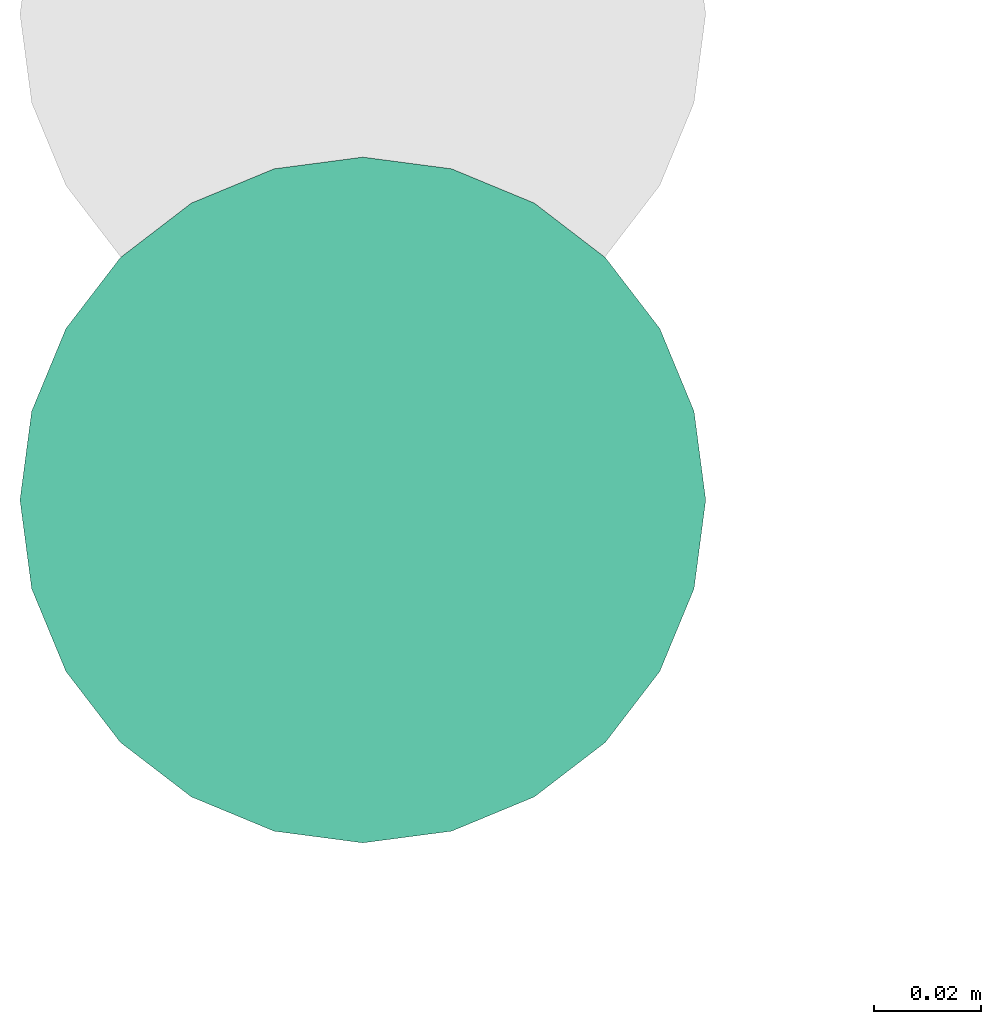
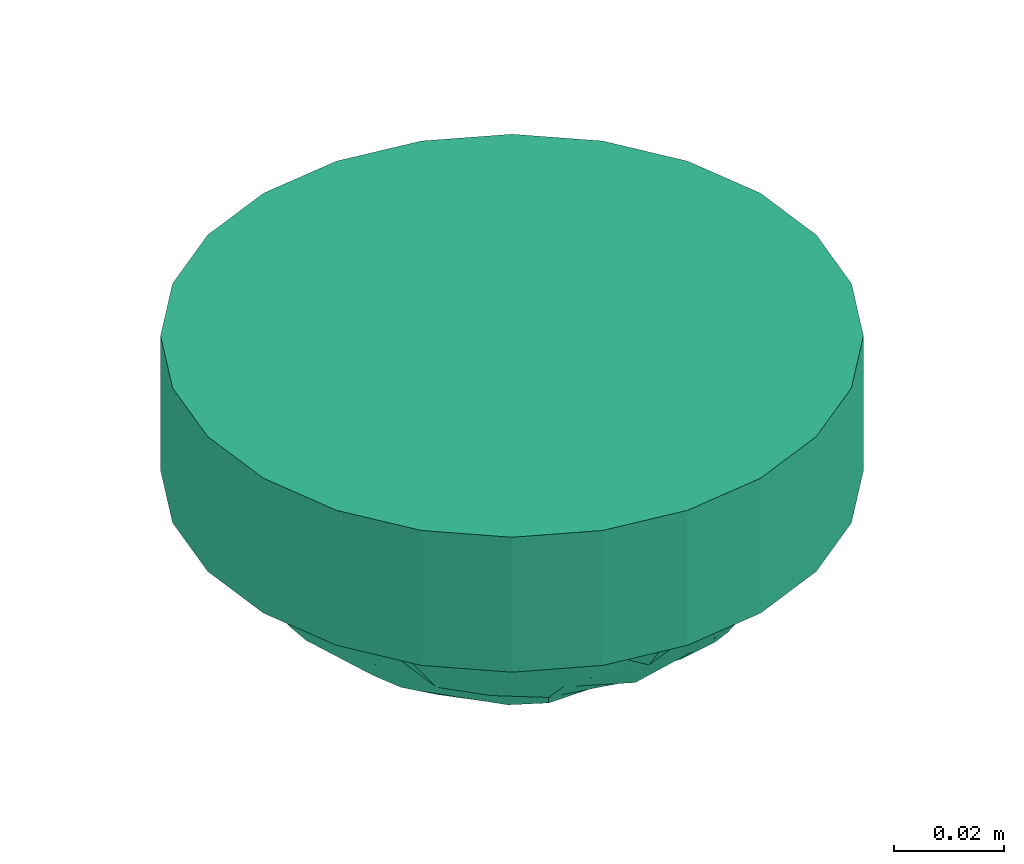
# One storey, part 29 of 153: 1 flow terminal.
"""IFC2X3 building model written with IfcOpenShell, lengths in metres."""

from ifc_helpers import new_model, entity, si_unit, converted_unit, derived_unit, direction, frame, origin, place, context, subcontext, project, spatial, faceted_brep, source, transform, mapped, type_object, type_shapes, element, save


model = new_model("IFC2X3")

# Units and contexts
model_context = context("Model", 3, precision=1e-05, world=origin(), true_north=direction((6.12303176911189e-17, 1.0)))
body_context = subcontext(model_context, "Body", "Model", "MODEL_VIEW")
ifc_project = project(units=[si_unit("LENGTHUNIT", "METRE"), si_unit("AREAUNIT", "SQUARE_METRE"), si_unit("VOLUMEUNIT", "CUBIC_METRE"), converted_unit("PLANEANGLEUNIT", "DEGREE", entity("IfcRatioMeasure", 0.0174532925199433), si_unit("PLANEANGLEUNIT", "RADIAN"), dimensions=[0, 0, 0, 0, 0, 0, 0]), si_unit("MASSUNIT", "GRAM", prefix="KILO"), derived_unit("MASSDENSITYUNIT", [(si_unit("MASSUNIT", "GRAM", prefix="KILO"), 1), (si_unit("LENGTHUNIT", "METRE"), -3)]), si_unit("TIMEUNIT", "SECOND"), si_unit("FREQUENCYUNIT", "HERTZ"), si_unit("THERMODYNAMICTEMPERATUREUNIT", "DEGREE_CELSIUS"), derived_unit("THERMALTRANSMITTANCEUNIT", [(si_unit("MASSUNIT", "GRAM", prefix="KILO"), 1), (si_unit("THERMODYNAMICTEMPERATUREUNIT", "KELVIN"), -1), (si_unit("TIMEUNIT", "SECOND"), -3)]), derived_unit("VOLUMETRICFLOWRATEUNIT", [(si_unit("LENGTHUNIT", "METRE"), 3), (si_unit("TIMEUNIT", "SECOND"), -1)]), si_unit("ELECTRICCURRENTUNIT", "AMPERE"), si_unit("ELECTRICVOLTAGEUNIT", "VOLT"), si_unit("POWERUNIT", "WATT"), si_unit("FORCEUNIT", "NEWTON"), si_unit("ILLUMINANCEUNIT", "LUX"), si_unit("LUMINOUSFLUXUNIT", "LUMEN"), si_unit("LUMINOUSINTENSITYUNIT", "CANDELA"), derived_unit("USERDEFINED", [(si_unit("MASSUNIT", "GRAM", prefix="KILO"), -1), (si_unit("LENGTHUNIT", "METRE"), -2), (si_unit("TIMEUNIT", "SECOND"), 3), (si_unit("LUMINOUSFLUXUNIT", "LUMEN"), 1)]), derived_unit("LINEARVELOCITYUNIT", [(si_unit("LENGTHUNIT", "METRE"), 1), (si_unit("TIMEUNIT", "SECOND"), -1)]), si_unit("PRESSUREUNIT", "PASCAL"), derived_unit("USERDEFINED", [(si_unit("LENGTHUNIT", "METRE"), -2), (si_unit("MASSUNIT", "GRAM", prefix="KILO"), 1), (si_unit("TIMEUNIT", "SECOND"), -2)])], contexts=[model_context])

# Site, building, storey
site_placement = place(None, origin())
site = spatial("IfcSite", under=ifc_project, at=site_placement, Name="Default", CompositionType="ELEMENT")
building_placement = place(site_placement, origin())
building = spatial("IfcBuilding", under=site, at=building_placement, CompositionType="ELEMENT")
storey_placement = place(building_placement, frame((0.0, 0.0, -4.62)))
storey = spatial("IfcBuildingStorey", under=building, at=storey_placement, Name="S02", CompositionType="ELEMENT", Elevation=-4.62)

# Flow terminal
light_fixture_type = type_object("IfcLightFixtureType", Name="Détecteur 360°", PredefinedType="NOTDEFINED")
shared_shape = source(origin(), body_context, "Body", "Brep", [
    faceted_brep([(-0.0175153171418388, 0.0435914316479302, 0.0478512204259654), (0.0, 0.034524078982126, 0.0563702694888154), (0.0, 0.0397165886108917, 0.0531256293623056), (0.0, -0.00603476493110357, 0.0659648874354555), (0.0, 0.0, 0.0669999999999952), (-0.0194029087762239, 0.000878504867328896, 0.0644483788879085), (-0.0269980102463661, 0.0195753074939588, 0.0584711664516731), (-0.0366619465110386, 0.0127227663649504, 0.0549213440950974), (-0.0174057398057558, 0.0159851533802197, 0.0630502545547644), (-0.0276843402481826, 0.0401006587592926, 0.0459804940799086), (-0.0359767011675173, 0.0348394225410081, 0.0444249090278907), (-0.0202403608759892, 0.0335607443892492, 0.054639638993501), (-0.0256912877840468, 0.0533485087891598, 0.0299999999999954), (-0.0172617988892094, 0.0486391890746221, 0.042533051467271), (-0.0133088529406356, 0.0517577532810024, 0.0400582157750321), (-0.0462941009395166, 0.0369183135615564, 0.0299999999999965), (-0.0186245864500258, 0.0267295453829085, 0.0589100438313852), (0.0, 0.0241390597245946, 0.0628595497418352), (-0.0139070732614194, 0.0374370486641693, 0.0540817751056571), (0.0, -0.0397165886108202, 0.0531256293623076), (-0.0172618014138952, -0.0486391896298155, 0.0425330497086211), (0.0, -0.0449090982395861, 0.049880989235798), (-0.0353547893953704, -0.0284533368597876, 0.0494330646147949), (-0.0202403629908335, -0.0335607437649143, 0.054639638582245), (-0.0186245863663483, -0.0267295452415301, 0.0589100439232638), (-0.0191783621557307, -0.0150189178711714, 0.0627751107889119), (-0.0249385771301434, -0.0204731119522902, 0.0590841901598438), (0.0, -0.0120695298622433, 0.0649297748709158), (-0.0453471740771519, 0.0286501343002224, 0.0397747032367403), (-0.052010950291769, 0.0250471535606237, 0.029999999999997), (-0.0465404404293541, 0.0196510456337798, 0.0438984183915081), (-0.0365036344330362, 0.0226255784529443, 0.0516441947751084), (-0.0276843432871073, -0.0401006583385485, 0.0459804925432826), (-0.0359926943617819, -0.0451334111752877, 0.0299999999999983), (-0.0175153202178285, -0.0435914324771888, 0.0478512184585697), (0.0, 0.049890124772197, 0.0429575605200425), (0.0, 0.0545512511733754, 0.0364787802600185), (0.0, 0.0592123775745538, 0.0299999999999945), (-0.00849704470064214, 0.0572729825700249, 0.0299999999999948), (-0.0169940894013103, 0.055333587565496, 0.0299999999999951), (-0.035976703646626, -0.0348394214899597, 0.0444249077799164), (-0.0308419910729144, -0.0492409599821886, 0.0299999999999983), (-0.025691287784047, -0.0533485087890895, 0.0299999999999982), (-0.0130265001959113, -0.0514867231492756, 0.040526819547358), (0.0, -0.0498901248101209, 0.0429575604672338), (-0.0169940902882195, -0.0553335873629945, 0.029999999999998), (-0.0353547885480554, 0.0284533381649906, 0.0494330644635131), (0.0, -0.0181042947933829, 0.0638946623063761), (-0.036659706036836, 0.00328672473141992, 0.0563153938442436), (-0.0485435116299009, 0.009089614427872, 0.0452357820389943), (-0.0473669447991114, 0.00128092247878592, 0.0474310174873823), (0.0, 0.00603476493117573, 0.0659648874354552), (-0.0226425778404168, 0.0107553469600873, 0.0624973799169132), (-0.0139070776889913, -0.0374370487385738, 0.0540817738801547), (0.0, -0.0293315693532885, 0.0596149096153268), (-0.0453471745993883, -0.0286501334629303, 0.0397747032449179), (-0.0449600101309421, -0.018422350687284, 0.0461366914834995), (-0.0577277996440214, -0.0131759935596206, 0.0299999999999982), (-0.0476906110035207, -0.00670602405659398, 0.0466053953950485), (0.0, 0.0449090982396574, 0.0498809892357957), (-0.0308419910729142, 0.049240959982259, 0.0299999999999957), (-0.0359926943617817, 0.0451334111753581, 0.029999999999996), (0.0, -0.0345240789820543, 0.0563702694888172), (-0.0462941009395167, -0.0369183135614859, 0.0299999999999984), (-0.0411433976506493, -0.0410258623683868, 0.0299999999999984), (-0.0491525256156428, 0.03098273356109, 0.0299999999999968), (-0.0577277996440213, 0.0131759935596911, 0.0299999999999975), (0.0, 0.018104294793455, 0.0638946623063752), (-0.0377433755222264, -0.00448382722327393, 0.0554913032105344), (-0.0577277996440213, 0.00658799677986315, 0.0299999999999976), (-0.0577277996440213, -0.00658799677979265, 0.029999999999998), (-0.0577277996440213, 0.0, 0.0299999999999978), (-0.0385149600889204, -0.012484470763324, 0.0536578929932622), (-0.0491525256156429, -0.0309827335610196, 0.0299999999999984), (-0.0548693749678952, -0.0191115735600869, 0.0299999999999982), (0.0, -0.0241390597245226, 0.0628595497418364), (-0.0146256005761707, -0.0100436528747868, 0.0649170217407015), (-0.0271766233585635, -0.00920278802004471, 0.0609170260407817), (0.0, 0.0120695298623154, 0.0649297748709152), (-0.0520109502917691, -0.0250471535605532, 0.0299999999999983), (-0.0411433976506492, 0.0410258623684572, 0.0299999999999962), (-0.0548693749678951, 0.0191115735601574, 0.0299999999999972), (0.0, 0.0293315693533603, 0.0596149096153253), (-0.0127455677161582, -0.0563032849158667, 0.0299999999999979), (-0.00849704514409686, -0.057272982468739, 0.0299999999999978), (0.0, -0.0592123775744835, 0.0299999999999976), (0.0, -0.0545512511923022, 0.0364787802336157), (-0.0213426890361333, -0.054341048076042, 0.0299999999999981), (0.0175153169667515, -0.0435914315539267, 0.0478512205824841), (0.0194029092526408, -0.000878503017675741, 0.0644483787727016), (0.0269980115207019, -0.0195753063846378, 0.0584711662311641), (0.0366619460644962, -0.012722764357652, 0.0549213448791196), (0.0174057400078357, -0.0159851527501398, 0.0630502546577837), (0.0276843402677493, -0.0401006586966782, 0.0459804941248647), (0.0359767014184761, -0.0348394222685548, 0.0444249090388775), (0.0202403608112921, -0.0335607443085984, 0.0546396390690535), (0.0256912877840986, -0.0533485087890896, 0.0299999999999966), (0.0172617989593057, -0.0486391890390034, 0.0425330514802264), (0.0133088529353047, -0.0517577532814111, 0.0400582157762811), (0.0462941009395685, -0.0369183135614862, 0.0299999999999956), (0.00849704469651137, -0.0572729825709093, 0.0299999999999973), (0.0169940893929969, -0.0553335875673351, 0.029999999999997), (0.0308419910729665, 0.0492409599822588, 0.0299999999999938), (0.025691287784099, 0.0533485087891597, 0.0299999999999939), (0.0172617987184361, 0.0486391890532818, 0.0425330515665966), (0.0175153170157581, 0.0435914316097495, 0.0478512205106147), (0.0353547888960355, 0.0284533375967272, 0.0494330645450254), (0.0202403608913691, 0.03356074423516, 0.0546396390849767), (0.0186245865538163, 0.0267295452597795, 0.0589100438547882), (0.0191783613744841, 0.0150189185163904, 0.0627751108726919), (0.0249385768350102, 0.0204731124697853, 0.0590841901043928), (0.0520109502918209, -0.0250471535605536, 0.0299999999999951), (0.0548693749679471, -0.0191115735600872, 0.0299999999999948), (0.0577277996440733, -0.0131759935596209, 0.0299999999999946), (0.0465404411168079, -0.0196510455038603, 0.0438984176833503), (0.018624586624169, -0.0267295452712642, 0.0589100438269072), (0.0365036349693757, -0.0226255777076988, 0.0516441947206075), (0.0276843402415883, 0.0401006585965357, 0.0459804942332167), (0.0359926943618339, 0.0451334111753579, 0.0299999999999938), (0.0139070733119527, -0.0374370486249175, 0.0540817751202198), (0.0359767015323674, 0.0348394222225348, 0.044424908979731), (0.0226425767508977, -0.0107553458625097, 0.0624973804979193), (0.0130264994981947, 0.0514867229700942, 0.0405268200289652), (0.0169940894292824, 0.0553335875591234, 0.0299999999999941), (0.0353547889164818, -0.0284533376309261, 0.0494330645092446), (0.0453471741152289, -0.0286501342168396, 0.039774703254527), (0.0366597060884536, -0.00328672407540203, 0.0563153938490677), (0.0485435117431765, -0.00908961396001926, 0.0452357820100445), (0.0473669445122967, -0.00128092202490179, 0.0474310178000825), (0.0139070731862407, 0.0374370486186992, 0.0540817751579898), (0.0453471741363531, 0.0286501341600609, 0.039774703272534), (0.0449600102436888, 0.018422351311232, 0.0461366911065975), (0.0577277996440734, 0.0131759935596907, 0.0299999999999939), (0.0476906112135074, 0.00670602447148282, 0.0466053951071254), (0.0308419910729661, -0.0492409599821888, 0.0299999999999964), (0.0359926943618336, -0.0451334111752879, 0.0299999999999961), (0.0462941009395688, 0.0369183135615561, 0.0299999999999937), (0.0411433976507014, 0.041025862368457, 0.0299999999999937), (0.0491525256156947, -0.0309827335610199, 0.0299999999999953), (0.0377433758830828, 0.00448382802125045, 0.0554913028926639), (0.0577277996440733, -0.00658799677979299, 0.0299999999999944), (0.0577277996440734, 0.00658799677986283, 0.0299999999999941), (0.0577277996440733, 0.0, 0.0299999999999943), (0.0385149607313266, 0.0124844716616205, 0.0536578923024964), (0.049152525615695, 0.0309827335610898, 0.0299999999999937), (0.0548693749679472, 0.0191115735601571, 0.0299999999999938), (0.0146256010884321, 0.0100436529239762, 0.0649170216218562), (0.0271766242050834, 0.00920278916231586, 0.0609170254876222), (0.0520109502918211, 0.0250471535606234, 0.0299999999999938), (0.041143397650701, -0.0410258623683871, 0.0299999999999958), (0.0127455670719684, 0.056303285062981, 0.0299999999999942), (0.0084970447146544, 0.0572729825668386, 0.0299999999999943), (0.0213426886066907, 0.0543410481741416, 0.029999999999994), (0.0, 0.0, 0.0299999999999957)], [[[0, 1, 2]], [[3, 4, 5]], [[6, 7, 8]], [[9, 10, 11]], [[12, 13, 14]], [[9, 15, 10]], [[16, 17, 11]], [[9, 11, 18]], [[19, 20, 21]], [[22, 23, 24]], [[25, 26, 27]], [[28, 29, 30]], [[16, 31, 6]], [[32, 33, 34]], [[35, 36, 37, 38, 39]], [[22, 40, 23]], [[41, 42, 20]], [[20, 43, 21]], [[44, 43, 45]], [[19, 34, 20]], [[46, 10, 28]], [[47, 26, 24]], [[48, 49, 50]], [[51, 52, 5]], [[23, 53, 54]], [[55, 22, 56]], [[57, 56, 58]], [[2, 59, 13]], [[0, 2, 13]], [[13, 60, 0]], [[1, 0, 18]], [[61, 9, 0]], [[19, 62, 34]], [[33, 41, 34]], [[63, 64, 33, 32]], [[34, 41, 20]], [[32, 34, 53]], [[31, 28, 30]], [[15, 65, 10]], [[30, 66, 49]], [[67, 16, 6]], [[52, 8, 7]], [[7, 31, 30]], [[68, 50, 58]], [[48, 50, 68]], [[49, 69, 50]], [[70, 57, 58, 71]], [[52, 48, 5]], [[22, 26, 56]], [[68, 58, 72]], [[72, 56, 26]], [[73, 40, 55]], [[56, 74, 55]], [[24, 75, 47]], [[5, 4, 51]], [[49, 48, 7]], [[5, 76, 3]], [[77, 5, 68]], [[51, 78, 52]], [[47, 27, 26]], [[25, 27, 76]], [[75, 24, 23]], [[22, 24, 26]], [[53, 62, 54]], [[40, 32, 23]], [[32, 40, 63]], [[73, 63, 40]], [[79, 73, 55, 74]], [[26, 25, 72]], [[22, 55, 40]], [[54, 75, 23]], [[17, 16, 67]], [[67, 8, 78]], [[11, 10, 46]], [[16, 11, 46]], [[52, 7, 48]], [[65, 29, 28]], [[9, 61, 80, 15]], [[81, 66, 30, 29]], [[65, 28, 10]], [[31, 46, 28]], [[1, 18, 82]], [[11, 17, 82]], [[49, 7, 30]], [[35, 39, 14]], [[14, 13, 59]], [[83, 84, 85, 86, 44, 45]], [[20, 42, 43]], [[43, 42, 87, 45]], [[62, 53, 34]], [[32, 53, 23]], [[82, 18, 11]], [[9, 18, 0]], [[12, 14, 39]], [[14, 59, 35]], [[61, 0, 60]], [[13, 12, 60]], [[46, 31, 16]], [[6, 31, 7]], [[69, 71, 50]], [[49, 66, 69]], [[58, 50, 71]], [[48, 68, 5]], [[77, 68, 72]], [[25, 77, 72]], [[72, 58, 56]], [[56, 57, 74]], [[77, 25, 76]], [[77, 76, 5]], [[3, 76, 27]], [[6, 8, 67]], [[8, 52, 78]], [[21, 43, 44]], [[88, 62, 19]], [[51, 4, 89]], [[90, 91, 92]], [[93, 94, 95]], [[96, 97, 98]], [[93, 99, 94]], [[44, 86, 85, 100, 101]], [[102, 103, 104]], [[2, 105, 104]], [[106, 107, 108]], [[109, 110, 78]], [[111, 112, 113, 114]], [[115, 116, 90]], [[117, 118, 105]], [[93, 95, 119]], [[106, 120, 107]], [[3, 121, 89]], [[35, 122, 123]], [[104, 122, 59]], [[115, 75, 95]], [[124, 94, 125]], [[67, 110, 108]], [[126, 127, 128]], [[2, 104, 59]], [[107, 129, 82]], [[130, 106, 131]], [[132, 131, 133]], [[19, 21, 97]], [[88, 19, 97]], [[97, 134, 88]], [[62, 88, 119]], [[135, 93, 88]], [[2, 1, 105]], [[118, 102, 105]], [[136, 137, 118, 117]], [[105, 102, 104]], [[117, 105, 129]], [[116, 125, 114]], [[99, 138, 94]], [[114, 113, 127]], [[47, 115, 90]], [[27, 92, 121]], [[91, 116, 114]], [[139, 128, 133]], [[126, 128, 139]], [[127, 140, 128]], [[141, 132, 133, 142]], [[121, 126, 89]], [[106, 110, 131]], [[139, 133, 143]], [[143, 131, 110]], [[144, 120, 130]], [[131, 145, 130]], [[108, 17, 67]], [[89, 4, 3]], [[127, 126, 91]], [[89, 146, 51]], [[147, 89, 139]], [[3, 27, 121]], [[67, 78, 110]], [[109, 78, 146]], [[17, 108, 107]], [[106, 108, 110]], [[129, 1, 82]], [[120, 117, 107]], [[117, 120, 136]], [[144, 136, 120]], [[148, 144, 130, 145]], [[110, 109, 143]], [[106, 130, 120]], [[82, 17, 107]], [[75, 115, 47]], [[47, 92, 27]], [[95, 94, 124]], [[115, 95, 124]], [[121, 91, 126]], [[138, 111, 125]], [[93, 135, 149, 99]], [[125, 111, 114]], [[138, 125, 94]], [[116, 124, 125]], [[62, 119, 54]], [[95, 75, 54]], [[127, 91, 114]], [[44, 101, 98]], [[98, 97, 21]], [[150, 151, 37, 36, 35, 123]], [[104, 103, 122]], [[122, 103, 152, 123]], [[1, 129, 105]], [[117, 129, 107]], [[54, 119, 95]], [[93, 119, 88]], [[96, 98, 101]], [[98, 21, 44]], [[135, 88, 134]], [[97, 96, 134]], [[124, 116, 115]], [[90, 116, 91]], [[140, 142, 128]], [[127, 113, 140]], [[133, 128, 142]], [[126, 139, 89]], [[147, 139, 143]], [[109, 147, 143]], [[143, 133, 131]], [[131, 132, 145]], [[147, 109, 146]], [[147, 146, 89]], [[51, 146, 78]], [[121, 92, 91]], [[90, 92, 47]], [[59, 122, 35]], [[153, 42, 41]], [[153, 41, 33]], [[153, 33, 64]], [[153, 64, 63]], [[153, 63, 73]], [[153, 73, 79]], [[153, 79, 74]], [[153, 74, 57]], [[153, 57, 70]], [[153, 87, 42]], [[153, 45, 87]], [[153, 83, 45]], [[153, 84, 83]], [[153, 85, 84]], [[153, 70, 71]], [[153, 71, 69]], [[153, 69, 66]], [[153, 66, 81]], [[153, 81, 29]], [[153, 29, 65]], [[153, 65, 15]], [[153, 15, 80]], [[153, 80, 61]], [[153, 61, 60]], [[153, 60, 12]], [[153, 12, 39]], [[153, 39, 38]], [[153, 38, 37]], [[153, 37, 151]], [[153, 100, 85]], [[153, 101, 100]], [[153, 96, 101]], [[153, 134, 96]], [[153, 135, 134]], [[153, 149, 135]], [[153, 99, 149]], [[153, 138, 99]], [[153, 111, 138]], [[153, 112, 111]], [[153, 113, 112]], [[153, 151, 150]], [[153, 150, 123]], [[153, 123, 152]], [[153, 152, 103]], [[153, 103, 102]], [[153, 102, 118]], [[153, 118, 137]], [[153, 137, 136]], [[153, 136, 144]], [[153, 144, 148]], [[153, 148, 145]], [[153, 145, 132]], [[153, 132, 141]], [[153, 141, 142]], [[153, 142, 140]], [[153, 140, 113]]]),
    faceted_brep([(0.0452548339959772, 0.0452548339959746, 0.0299999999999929), (0.0320000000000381, 0.0554256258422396, 0.0299999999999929), (0.0165644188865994, 0.0618192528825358, 0.029999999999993), (0.0, 0.0640000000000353, 0.0299999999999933), (-0.0165644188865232, 0.0618192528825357, 0.0299999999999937), (-0.0319999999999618, 0.0554256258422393, 0.0299999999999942), (-0.0452548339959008, 0.0452548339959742, 0.0299999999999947), (-0.0554256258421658, 0.0320000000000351, 0.0299999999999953), (-0.061819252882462, 0.0165644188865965, 0.0299999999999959), (-0.0639999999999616, 0.0, 0.0299999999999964), (-0.0618192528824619, -0.0165644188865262, 0.0299999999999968), (-0.0554256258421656, -0.0319999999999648, 0.0299999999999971), (-0.0452548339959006, -0.0452548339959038, 0.0299999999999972), (-0.0319999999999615, -0.0554256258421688, 0.0299999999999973), (-0.0165644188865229, -0.061819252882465, 0.0299999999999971), (0.0, -0.0639999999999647, 0.0299999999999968), (0.0165644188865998, -0.061819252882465, 0.0299999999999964), (0.0320000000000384, -0.0554256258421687, 0.0299999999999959), (0.0452548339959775, -0.0452548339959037, 0.0299999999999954), (0.0554256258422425, -0.0319999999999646, 0.0299999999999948), (0.0618192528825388, -0.016564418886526, 0.0299999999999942), (0.0640000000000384, 0.0, 0.0299999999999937), (0.0618192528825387, 0.016564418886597, 0.0299999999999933), (0.0554256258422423, 0.0320000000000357, 0.029999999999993), (0.0, -0.0639999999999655, 0.0), (-0.0165644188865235, -0.0618192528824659, 0.0), (-0.0319999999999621, -0.0554256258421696, 0.0), (-0.0452548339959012, -0.0452548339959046, 0.0), (-0.0554256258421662, -0.0319999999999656, 0.0), (-0.0618192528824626, -0.016564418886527, 0.0), (-0.0639999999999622, 0.0, 0.0), (-0.0618192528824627, 0.0165644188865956, 0.0), (-0.0554256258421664, 0.0320000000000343, 0.0), (-0.0452548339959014, 0.0452548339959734, 0.0), (-0.0319999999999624, 0.0554256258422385, 0.0), (-0.0165644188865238, 0.0618192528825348, 0.0), (0.0, 0.0640000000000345, 0.0), (0.0165644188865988, 0.061819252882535, 0.0), (0.0320000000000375, 0.0554256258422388, 0.0), (0.0452548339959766, 0.0452548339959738, 0.0), (0.0554256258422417, 0.0320000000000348, 0.0), (0.061819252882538, 0.0165644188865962, 0.0), (0.0640000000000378, 0.0, 0.0), (0.0618192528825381, -0.0165644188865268, 0.0), (0.0554256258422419, -0.0319999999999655, 0.0), (0.0452548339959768, -0.0452548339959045, 0.0), (0.0320000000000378, -0.0554256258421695, 0.0), (0.0165644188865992, -0.0618192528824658, 0.0)], [[[0, 1, 2, 3, 4, 5, 6, 7, 8, 9, 10, 11, 12, 13, 14, 15, 16, 17, 18, 19, 20, 21, 22, 23]], [[24, 25, 26, 27, 28, 29, 30, 31, 32, 33, 34, 35, 36, 37, 38, 39, 40, 41, 42, 43, 44, 45, 46, 47]], [[30, 9, 8, 31]], [[31, 8, 7, 32]], [[34, 33, 6, 5]], [[6, 33, 32, 7]], [[35, 34, 5, 4]], [[35, 4, 3, 36]], [[36, 3, 2, 37]], [[37, 2, 1, 38]], [[40, 39, 0, 23]], [[0, 39, 38, 1]], [[41, 40, 23, 22]], [[41, 22, 21, 42]], [[42, 21, 20, 43]], [[43, 20, 19, 44]], [[46, 45, 18, 17]], [[18, 45, 44, 19]], [[47, 46, 17, 16]], [[47, 16, 15, 24]], [[24, 15, 14, 25]], [[25, 14, 13, 26]], [[10, 9, 30, 29]], [[26, 13, 12, 27]], [[12, 11, 28, 27]], [[11, 10, 29, 28]]]),
])
type_shapes(light_fixture_type, [shared_shape])
flow_terminal_placement = place(storey_placement, frame((25.4897436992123, -194.49801999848, 12.129), z_axis=(0.0, 0.0, -1.0), x_axis=(1.0, 0.0, 0.0)))
element("IfcFlowTerminal", 1, at=flow_terminal_placement, inside=storey, type_object=light_fixture_type, Name="INT - Détecteur 360°:Détecteur 360°", ObjectType="INT - Détecteur 360°:Détecteur 360°", context=body_context, shape_type="MappedRepresentation", body=[
    mapped(shared_shape, transform((0.0, 0.0, 0.0), scale=1.0)),
])

save(model, "model.ifc")
